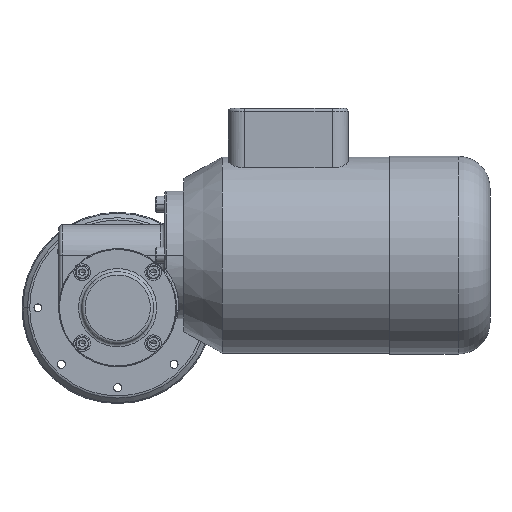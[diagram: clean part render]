
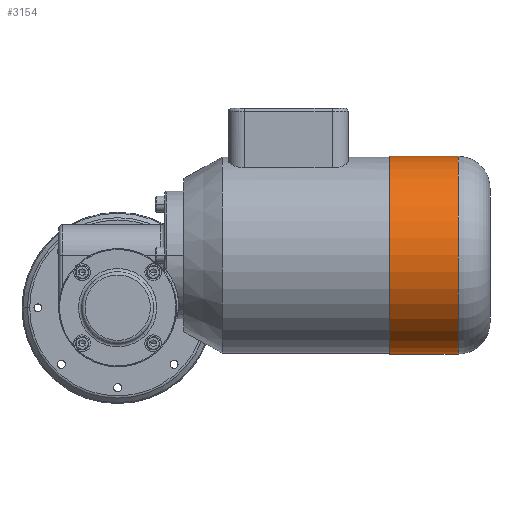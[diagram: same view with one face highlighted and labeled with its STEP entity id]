
A CAD part, top view. The second image highlights one B-rep face of the part: STEP entity #3154.
In plain terms, the highlighted cylindrical face has radius 62 mm (diameter 124 mm), a partial arc.
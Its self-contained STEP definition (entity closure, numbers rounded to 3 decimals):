
#103 = CIRCLE ( 'NONE', #12156, 62. ) ;
#255 = CIRCLE ( 'NONE', #3599, 62. ) ;
#883 = DIRECTION ( 'NONE',  ( 1., 0., 0. ) ) ;
#973 = EDGE_CURVE ( 'NONE', #8061, #9583, #9389, .T. ) ;
#1292 = AXIS2_PLACEMENT_3D ( 'NONE', #12435, #883, #10370 ) ;
#1382 = ORIENTED_EDGE ( 'NONE', *, *, #973, .T. ) ;
#1384 = DIRECTION ( 'NONE',  ( 0., 1., 0. ) ) ;
#1582 = EDGE_CURVE ( 'NONE', #9582, #8061, #255, .T. ) ;
#1635 = CARTESIAN_POINT ( 'NONE',  ( 122.848, -19.593, 29.7 ) ) ;
#2240 = CARTESIAN_POINT ( 'NONE',  ( 142.848, 104.407, 29.7 ) ) ;
#2322 = CYLINDRICAL_SURFACE ( 'NONE', #1292, 62. ) ;
#2417 = DIRECTION ( 'NONE',  ( 1., 0., 0. ) ) ;
#2474 = DIRECTION ( 'NONE',  ( 0., -1., 0. ) ) ;
#3154 = ADVANCED_FACE ( 'NONE', ( #7095 ), #2322, .T. ) ;
#3231 = EDGE_CURVE ( 'NONE', #9582, #10233, #7965, .T. ) ;
#3599 = AXIS2_PLACEMENT_3D ( 'NONE', #10044, #2417, #2474 ) ;
#4067 = EDGE_CURVE ( 'NONE', #9583, #10233, #103, .T. ) ;
#5560 = ORIENTED_EDGE ( 'NONE', *, *, #3231, .F. ) ;
#6079 = DIRECTION ( 'NONE',  ( 1., 0., 0. ) ) ;
#6645 = VECTOR ( 'NONE', #11467, 1000. ) ;
#6783 = ORIENTED_EDGE ( 'NONE', *, *, #4067, .T. ) ;
#7043 = CARTESIAN_POINT ( 'NONE',  ( 122.848, 42.407, 29.7 ) ) ;
#7095 = FACE_OUTER_BOUND ( 'NONE', #7913, .T. ) ;
#7913 = EDGE_LOOP ( 'NONE', ( #5560, #11295, #1382, #6783 ) ) ;
#7965 = LINE ( 'NONE', #2240, #9358 ) ;
#8061 = VERTEX_POINT ( 'NONE', #11493 ) ;
#8408 = CARTESIAN_POINT ( 'NONE',  ( 142.848, -19.593, 29.7 ) ) ;
#9344 = CARTESIAN_POINT ( 'NONE',  ( 79.848, 104.407, 29.7 ) ) ;
#9358 = VECTOR ( 'NONE', #6079, 1000. ) ;
#9389 = LINE ( 'NONE', #8408, #6645 ) ;
#9582 = VERTEX_POINT ( 'NONE', #9344 ) ;
#9583 = VERTEX_POINT ( 'NONE', #1635 ) ;
#9746 = CARTESIAN_POINT ( 'NONE',  ( 122.848, 104.407, 29.7 ) ) ;
#10044 = CARTESIAN_POINT ( 'NONE',  ( 79.848, 42.407, 29.7 ) ) ;
#10062 = DIRECTION ( 'NONE',  ( -1., 0., 0. ) ) ;
#10233 = VERTEX_POINT ( 'NONE', #9746 ) ;
#10370 = DIRECTION ( 'NONE',  ( 0., -1., 0. ) ) ;
#11295 = ORIENTED_EDGE ( 'NONE', *, *, #1582, .T. ) ;
#11467 = DIRECTION ( 'NONE',  ( 1., 0., 0. ) ) ;
#11493 = CARTESIAN_POINT ( 'NONE',  ( 79.848, -19.593, 29.7 ) ) ;
#12156 = AXIS2_PLACEMENT_3D ( 'NONE', #7043, #10062, #1384 ) ;
#12435 = CARTESIAN_POINT ( 'NONE',  ( 142.848, 42.407, 29.7 ) ) ;
